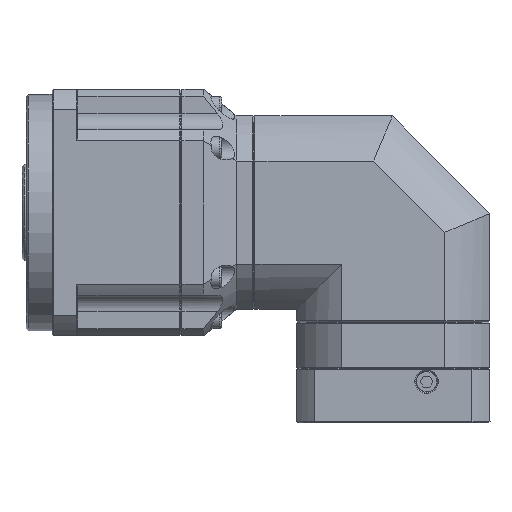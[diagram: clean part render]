
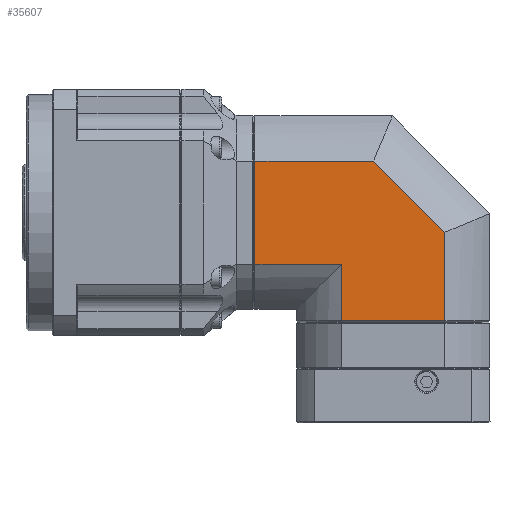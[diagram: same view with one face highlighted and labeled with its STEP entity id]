
A CAD part, left-side view. The second image highlights one B-rep face of the part: STEP entity #35607.
In plain terms, the highlighted planar face has unit normal (1, 0, 0).
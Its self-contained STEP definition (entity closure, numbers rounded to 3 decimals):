
#1375 = LINE ( 'NONE', #60894, #35467 ) ;
#4607 = CARTESIAN_POINT ( 'NONE',  ( -45., -69.111, 24. ) ) ;
#4866 = LINE ( 'NONE', #21793, #59194 ) ;
#5492 = FACE_OUTER_BOUND ( 'NONE', #72633, .T. ) ;
#12280 = ORIENTED_EDGE ( 'NONE', *, *, #78016, .F. ) ;
#12425 = VERTEX_POINT ( 'NONE', #78283 ) ;
#13184 = EDGE_CURVE ( 'NONE', #20634, #37414, #66840, .T. ) ;
#13245 = CARTESIAN_POINT ( 'NONE',  ( -45., -164.035, -15.622 ) ) ;
#17489 = EDGE_CURVE ( 'NONE', #68613, #77430, #49040, .T. ) ;
#18901 = CARTESIAN_POINT ( 'NONE',  ( -45., -157.611, -13.25 ) ) ;
#20634 = VERTEX_POINT ( 'NONE', #46856 ) ;
#21793 = CARTESIAN_POINT ( 'NONE',  ( -45., -69.111, 0. ) ) ;
#24121 = CARTESIAN_POINT ( 'NONE',  ( -45., -157.611, -50.5 ) ) ;
#25018 = VECTOR ( 'NONE', #66469, 1000. ) ;
#25224 = CARTESIAN_POINT ( 'NONE',  ( -45., -113.361, 24. ) ) ;
#26148 = EDGE_CURVE ( 'NONE', #73033, #34175, #49512, .T. ) ;
#32820 = DIRECTION ( 'NONE',  ( 0., -1., 0. ) ) ;
#33272 = LINE ( 'NONE', #13245, #85287 ) ;
#34132 = DIRECTION ( 'NONE',  ( 0., 0., -1. ) ) ;
#34175 = VERTEX_POINT ( 'NONE', #24121 ) ;
#35467 = VECTOR ( 'NONE', #34132, 1000. ) ;
#35607 = ADVANCED_FACE ( 'NONE', ( #5492 ), #79188, .T. ) ;
#37414 = VERTEX_POINT ( 'NONE', #4607 ) ;
#38438 = ORIENTED_EDGE ( 'NONE', *, *, #13184, .F. ) ;
#38802 = CARTESIAN_POINT ( 'NONE',  ( -45., -113.361, -50.5 ) ) ;
#38838 = DIRECTION ( 'NONE',  ( 1., 0., 0. ) ) ;
#42589 = DIRECTION ( 'NONE',  ( 0., 1., 0. ) ) ;
#42807 = AXIS2_PLACEMENT_3D ( 'NONE', #79460, #38838, #86291 ) ;
#43597 = EDGE_CURVE ( 'NONE', #34175, #12425, #59094, .T. ) ;
#46856 = CARTESIAN_POINT ( 'NONE',  ( -45., -124.413, 24. ) ) ;
#47387 = EDGE_CURVE ( 'NONE', #77430, #37414, #4866, .T. ) ;
#48154 = CARTESIAN_POINT ( 'NONE',  ( -45., -69.111, -24. ) ) ;
#49040 = LINE ( 'NONE', #49214, #82939 ) ;
#49214 = CARTESIAN_POINT ( 'NONE',  ( -45., -89.483, -24. ) ) ;
#49512 = LINE ( 'NONE', #38802, #81246 ) ;
#58855 = ORIENTED_EDGE ( 'NONE', *, *, #83237, .F. ) ;
#59094 = LINE ( 'NONE', #18901, #25018 ) ;
#59194 = VECTOR ( 'NONE', #62530, 1000. ) ;
#60894 = CARTESIAN_POINT ( 'NONE',  ( -45., -109.611, -13.25 ) ) ;
#62530 = DIRECTION ( 'NONE',  ( 0., 0., 1. ) ) ;
#62872 = CARTESIAN_POINT ( 'NONE',  ( -45., -109.611, -24. ) ) ;
#66469 = DIRECTION ( 'NONE',  ( 0., 0., 1. ) ) ;
#66840 = LINE ( 'NONE', #25224, #84801 ) ;
#67788 = ORIENTED_EDGE ( 'NONE', *, *, #17489, .T. ) ;
#68437 = ORIENTED_EDGE ( 'NONE', *, *, #47387, .T. ) ;
#68613 = VERTEX_POINT ( 'NONE', #62872 ) ;
#72633 = EDGE_LOOP ( 'NONE', ( #68437, #38438, #12280, #76451, #80285, #58855, #67788 ) ) ;
#72750 = DIRECTION ( 'NONE',  ( 0., 1., 0. ) ) ;
#73033 = VERTEX_POINT ( 'NONE', #80584 ) ;
#76451 = ORIENTED_EDGE ( 'NONE', *, *, #43597, .F. ) ;
#77430 = VERTEX_POINT ( 'NONE', #48154 ) ;
#78016 = EDGE_CURVE ( 'NONE', #12425, #20634, #33272, .T. ) ;
#78283 = CARTESIAN_POINT ( 'NONE',  ( -45., -157.611, -9.198 ) ) ;
#79188 = PLANE ( 'NONE',  #42807 ) ;
#79460 = CARTESIAN_POINT ( 'NONE',  ( -45., -157.611, 24. ) ) ;
#80285 = ORIENTED_EDGE ( 'NONE', *, *, #26148, .F. ) ;
#80584 = CARTESIAN_POINT ( 'NONE',  ( -45., -109.611, -50.5 ) ) ;
#81246 = VECTOR ( 'NONE', #32820, 1000. ) ;
#82939 = VECTOR ( 'NONE', #42589, 1000. ) ;
#83237 = EDGE_CURVE ( 'NONE', #68613, #73033, #1375, .T. ) ;
#84801 = VECTOR ( 'NONE', #72750, 1000. ) ;
#85287 = VECTOR ( 'NONE', #88008, 1000. ) ;
#86291 = DIRECTION ( 'NONE',  ( 0., 0., -1. ) ) ;
#88008 = DIRECTION ( 'NONE',  ( 0., 0.707, 0.707 ) ) ;
